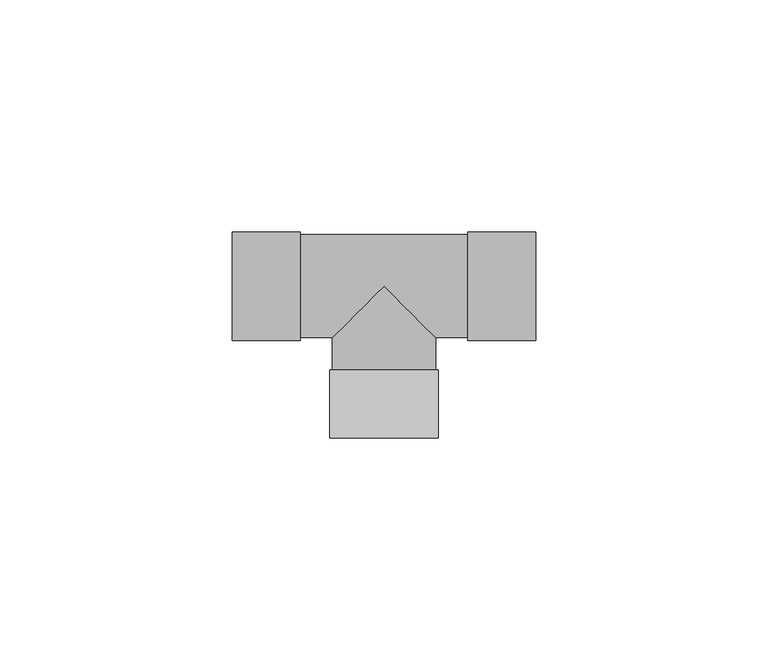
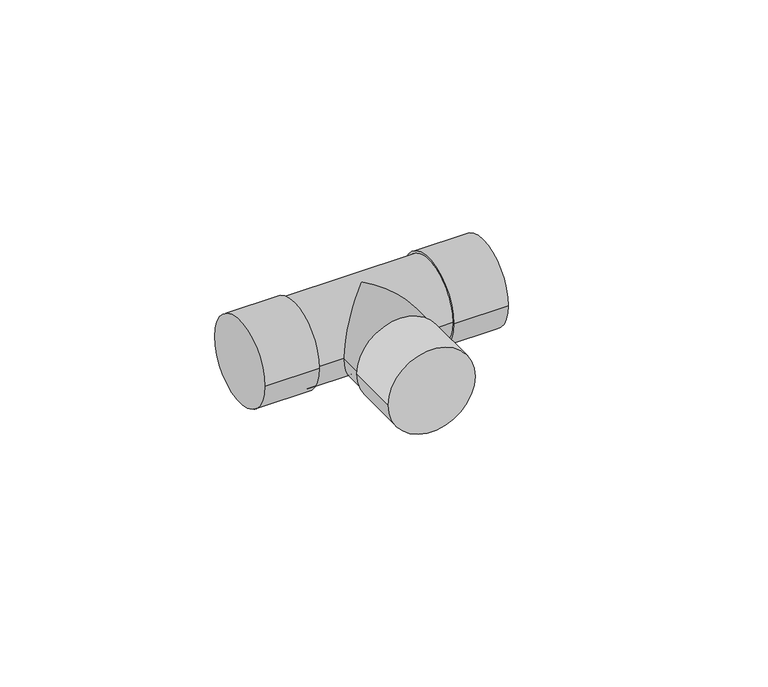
"""IFC4 building model written with IfcOpenShell, lengths in millimetres: pipe fitting geometry, Tê - Soldado - CU : Padrão."""

from ifc_helpers import new_model, si_unit, frame, origin, place, context, project, spatial, circle_curve, ellipse_curve, source, transform, mapped, element, save
from ifc_brep_helpers import plane_surface, cylinder_surface, advanced_brep


def pipe_fitting_660e7500(model_context):
    return source(origin(), model_context, "Body", "AdvancedBrep", [
        advanced_brep(
        [(11.7022, -32.7282, 0.0), (-11.7022, -32.7282, 0.0), (11.7022, -18.0748, 0.0), (-11.7022, -18.0748, 0.0), (11.11, -18.0748, 0.0), (-11.11, -18.0748, 0.0), (-32.7471, -11.7022, 0.0), (-32.7471, 11.7022, 0.0), (-18.0937, -11.7022, 0.0), (-18.0937, 11.7022, 0.0), (-18.0937, -11.11, 0.0), (-18.0937, 11.11, 0.0), (18.0937, 11.11, 0.0), (-11.11, -11.11, 0.0), (0.0, 0.0, 11.11), (11.11, -11.11, 0.0), (18.0937, -11.11, 0.0), (0.0, 0.0, -11.11), (18.0937, -11.7022, 0.0), (18.0937, 11.7022, 0.0), (32.7471, -11.7022, 0.0), (32.7471, 11.7022, 0.0)],
        [
            (0, 1, circle_curve(frame((0.0, -32.7282, 0.0), z_axis=(0.0, -1.0, 0.0), x_axis=(-1.0, 0.0, 0.0)), 11.7022)),
            (1, 0, circle_curve(frame((0.0, -32.7282, 0.0), z_axis=(0.0, -1.0, 0.0), x_axis=(-1.0, 0.0, 0.0)), 11.7022)),
            (2, 3, circle_curve(frame((0.0, -18.0748, 0.0), z_axis=(0.0, 1.0, 0.0), x_axis=(-1.0, 0.0, 0.0)), 11.7022)),
            (3, 2, circle_curve(frame((0.0, -18.0748, 0.0), z_axis=(0.0, 1.0, 0.0), x_axis=(-1.0, 0.0, 0.0)), 11.7022)),
            (4, 5, circle_curve(frame((0.0, -18.0748, 0.0), z_axis=(0.0, -1.0, 0.0), x_axis=(1.0, 0.0, 0.0)), 11.11)),
            (5, 4, circle_curve(frame((0.0, -18.0748, 0.0), z_axis=(0.0, -1.0, 0.0), x_axis=(1.0, 0.0, 0.0)), 11.11)),
            (0, 2),
            (3, 1),
            (6, 7, circle_curve(frame((-32.7471, 0.0, 0.0), z_axis=(-1.0, 0.0, 0.0), x_axis=(0.0, 1.0, 0.0)), 11.7022)),
            (7, 6, circle_curve(frame((-32.7471, 0.0, 0.0), z_axis=(-1.0, 0.0, 0.0), x_axis=(0.0, 1.0, 0.0)), 11.7022)),
            (8, 9, circle_curve(frame((-18.0937, 0.0, 0.0), z_axis=(1.0, 0.0, 0.0), x_axis=(0.0, 1.0, 0.0)), 11.7022)),
            (9, 8, circle_curve(frame((-18.0937, 0.0, 0.0), z_axis=(1.0, 0.0, 0.0), x_axis=(0.0, 1.0, 0.0)), 11.7022)),
            (10, 11, circle_curve(frame((-18.0937, 0.0, 0.0), z_axis=(-1.0, 0.0, 0.0), x_axis=(0.0, 1.0, 0.0)), 11.11)),
            (11, 10, circle_curve(frame((-18.0937, 0.0, 0.0), z_axis=(-1.0, 0.0, 0.0), x_axis=(0.0, 1.0, 0.0)), 11.11)),
            (6, 8),
            (9, 7),
            (12, 11),
            (10, 13),
            (13, 14, ellipse_curve(frame((0.0, 0.0, 0.0), z_axis=(-0.7071067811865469, 0.7071067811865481, 0.0), x_axis=(-0.707106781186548, -0.7071067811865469, 0.0)), 15.7119127, 11.11)),
            (14, 15, ellipse_curve(frame((0.0, 0.0, 0.0), z_axis=(0.7071067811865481, 0.7071067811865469, 0.0), x_axis=(-0.707106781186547, 0.7071067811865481, 0.0)), 15.7119127, 11.11)),
            (15, 16),
            (16, 12, circle_curve(frame((18.0937, 0.0, 0.0), z_axis=(-1.0, 0.0, 0.0), x_axis=(0.0, 1.0, 0.0)), 11.11)),
            (12, 16, circle_curve(frame((18.0937, 0.0, 0.0), z_axis=(-1.0, 0.0, 0.0), x_axis=(0.0, 1.0, 0.0)), 11.11)),
            (15, 17, ellipse_curve(frame((0.0, 0.0, 0.0), z_axis=(0.7071067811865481, 0.7071067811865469, 0.0), x_axis=(-0.707106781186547, 0.7071067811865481, 0.0)), 15.7119127, 11.11)),
            (17, 13, ellipse_curve(frame((0.0, 0.0, 0.0), z_axis=(-0.7071067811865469, 0.7071067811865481, 0.0), x_axis=(-0.707106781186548, -0.7071067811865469, 0.0)), 15.7119127, 11.11)),
            (18, 19, circle_curve(frame((18.0937, 0.0, 0.0), z_axis=(-1.0, 0.0, 0.0), x_axis=(0.0, 1.0, 0.0)), 11.7022)),
            (19, 18, circle_curve(frame((18.0937, 0.0, 0.0), z_axis=(-1.0, 0.0, 0.0), x_axis=(0.0, 1.0, 0.0)), 11.7022)),
            (20, 21, circle_curve(frame((32.7471, 0.0, 0.0), z_axis=(1.0, 0.0, 0.0), x_axis=(0.0, 1.0, 0.0)), 11.7022)),
            (21, 20, circle_curve(frame((32.7471, 0.0, 0.0), z_axis=(1.0, 0.0, 0.0), x_axis=(0.0, 1.0, 0.0)), 11.7022)),
            (18, 20),
            (21, 19),
            (4, 15),
            (13, 5),
        ],
        [
            plane_surface(frame((0.0, -32.7282, 0.0), z_axis=(0.0, -1.0, 0.0), x_axis=(0.0, 0.0, 1.0))),
            plane_surface(frame((0.0, -18.0748, 0.0), z_axis=(0.0, 1.0, 0.0), x_axis=(0.0, 0.0, 1.0))),
            cylinder_surface(frame((0.0, -32.7282, 0.0), z_axis=(0.0, -1.0, 0.0), x_axis=(-1.0, 0.0, 0.0)), 11.7022),
            plane_surface(frame((-32.7471, 0.0, 0.0), z_axis=(-1.0, 0.0, 0.0), x_axis=(0.0, 0.0, 1.0))),
            plane_surface(frame((-18.0937, 0.0, 0.0), z_axis=(1.0, 0.0, 0.0), x_axis=(0.0, 0.0, 1.0))),
            cylinder_surface(frame((-32.7471, 0.0, 0.0), z_axis=(-1.0, 0.0, 0.0), x_axis=(0.0, 1.0, 0.0)), 11.7022),
            cylinder_surface(frame((-18.0937, 0.0, 0.0), z_axis=(-1.0, 0.0, 0.0), x_axis=(0.0, 1.0, 0.0)), 11.11),
            plane_surface(frame((18.0937, 0.0, 0.0), z_axis=(-1.0, 0.0, 0.0), x_axis=(0.0, 0.0, 1.0))),
            plane_surface(frame((32.7471, 0.0, 0.0), z_axis=(1.0, 0.0, 0.0), x_axis=(0.0, 0.0, 1.0))),
            cylinder_surface(frame((18.0937, 0.0, 0.0), z_axis=(-1.0, 0.0, 0.0), x_axis=(0.0, 1.0, 0.0)), 11.7022),
            cylinder_surface(frame((0.0, 0.0, 0.0), z_axis=(0.0, 1.0, 0.0), x_axis=(1.0, 0.0, 0.0)), 11.11),
        ],
        [
            (0, [[1, 2]]),
            (1, [[3, 4], [5, 6]]),
            (2, [[-1, 7, -4, 8]]),
            (2, [[-2, -8, -3, -7]]),
            (3, [[9, 10]]),
            (4, [[11, 12], [13, 14]]),
            (5, [[-9, 15, -12, 16]]),
            (5, [[-10, -16, -11, -15]]),
            (6, [[17, -13, 18, 19, 20, 21, 22]]),
            (6, [[-17, 23, -21, 24, 25, -18, -14]]),
            (7, [[26, 27], [-22, -23]]),
            (8, [[28, 29]]),
            (9, [[-26, 30, -29, 31]]),
            (9, [[-27, -31, -28, -30]]),
            (10, [[32, -20, -19, 33, -5]]),
            (10, [[-32, -6, -33, -25, -24]]),
        ],
    ),
    ])


if __name__ == "__main__":
    model = new_model("IFC4")
    model_context = context("Model", 3, world=origin())
    ifc_project = project(units=[si_unit("LENGTHUNIT", "METRE", prefix="MILLI")], contexts=[model_context])
    site = spatial("IfcSite", under=ifc_project)
    building = spatial("IfcBuilding", under=site)
    placement = place(None, origin())
    pipe_fitting_shape = pipe_fitting_660e7500(model_context)
    element("IfcPipeFitting", 1, ObjectType="Tê - Soldado - CU : Padrão", at=placement, inside=building, context=model_context, shape_type="MappedRepresentation", body=[
        mapped(pipe_fitting_shape, transform((0.0, 0.0, 0.0), x_axis=(1.0, 0.0, 0.0), y_axis=(0.0, 1.0, 0.0), z_axis=(0.0, 0.0, 1.0))),
    ])
    save(model, "model.ifc")
